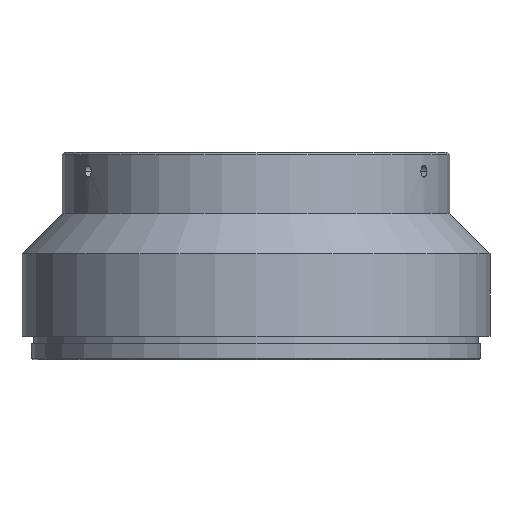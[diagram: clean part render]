
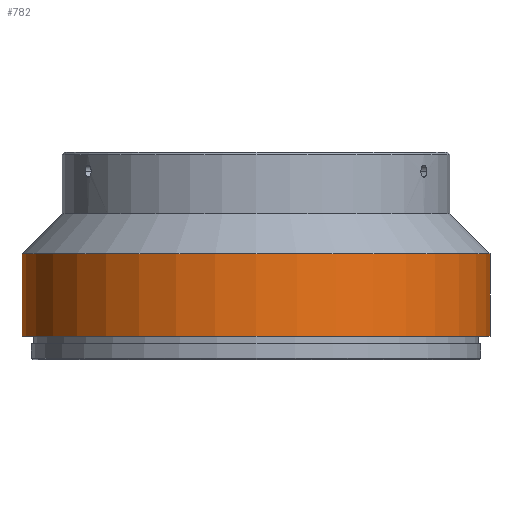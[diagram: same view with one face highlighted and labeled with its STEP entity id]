
A CAD part, front view. The second image highlights one B-rep face of the part: STEP entity #782.
In plain terms, the highlighted cylindrical face has radius 49.5 mm (diameter 99 mm), a partial arc.
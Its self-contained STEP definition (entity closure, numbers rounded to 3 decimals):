
#42 = EDGE_CURVE ( 'NONE', #1081, #888, #568, .T. ) ;
#51 = CARTESIAN_POINT ( 'NONE',  ( 49.5, 0., -21.5 ) ) ;
#127 = DIRECTION ( 'NONE',  ( 0., 0., 1. ) ) ;
#152 = DIRECTION ( 'NONE',  ( 1., 0., 0. ) ) ;
#187 = CARTESIAN_POINT ( 'NONE',  ( -49.5, 0., -38.9 ) ) ;
#211 = CIRCLE ( 'NONE', #1023, 49.5 ) ;
#221 = LINE ( 'NONE', #304, #721 ) ;
#225 = EDGE_LOOP ( 'NONE', ( #318, #815, #367, #541 ) ) ;
#226 = CARTESIAN_POINT ( 'NONE',  ( -49.5, 0., -21.5 ) ) ;
#304 = CARTESIAN_POINT ( 'NONE',  ( -49.5, 0., 0. ) ) ;
#307 = CIRCLE ( 'NONE', #803, 49.5 ) ;
#318 = ORIENTED_EDGE ( 'NONE', *, *, #339, .F. ) ;
#320 = CARTESIAN_POINT ( 'NONE',  ( 0., 0., 0. ) ) ;
#339 = EDGE_CURVE ( 'NONE', #988, #757, #221, .T. ) ;
#347 = EDGE_CURVE ( 'NONE', #757, #888, #307, .T. ) ;
#349 = FACE_OUTER_BOUND ( 'NONE', #225, .T. ) ;
#367 = ORIENTED_EDGE ( 'NONE', *, *, #42, .T. ) ;
#381 = VECTOR ( 'NONE', #127, 1000. ) ;
#485 = DIRECTION ( 'NONE',  ( 0., 0., 1. ) ) ;
#541 = ORIENTED_EDGE ( 'NONE', *, *, #347, .F. ) ;
#558 = DIRECTION ( 'NONE',  ( 1., 0., 0. ) ) ;
#559 = CARTESIAN_POINT ( 'NONE',  ( 0., 0., -21.5 ) ) ;
#568 = LINE ( 'NONE', #1088, #381 ) ;
#595 = DIRECTION ( 'NONE',  ( 0., 0., 1. ) ) ;
#640 = CARTESIAN_POINT ( 'NONE',  ( 0., 0., -38.9 ) ) ;
#721 = VECTOR ( 'NONE', #1078, 1000. ) ;
#753 = AXIS2_PLACEMENT_3D ( 'NONE', #320, #595, #152 ) ;
#757 = VERTEX_POINT ( 'NONE', #226 ) ;
#782 = ADVANCED_FACE ( 'NONE', ( #349 ), #1123, .T. ) ;
#803 = AXIS2_PLACEMENT_3D ( 'NONE', #559, #485, #908 ) ;
#815 = ORIENTED_EDGE ( 'NONE', *, *, #1053, .T. ) ;
#888 = VERTEX_POINT ( 'NONE', #51 ) ;
#908 = DIRECTION ( 'NONE',  ( 1., 0., 0. ) ) ;
#967 = DIRECTION ( 'NONE',  ( 0., 0., 1. ) ) ;
#988 = VERTEX_POINT ( 'NONE', #187 ) ;
#1023 = AXIS2_PLACEMENT_3D ( 'NONE', #640, #967, #558 ) ;
#1040 = CARTESIAN_POINT ( 'NONE',  ( 49.5, 0., -38.9 ) ) ;
#1053 = EDGE_CURVE ( 'NONE', #988, #1081, #211, .T. ) ;
#1078 = DIRECTION ( 'NONE',  ( 0., 0., 1. ) ) ;
#1081 = VERTEX_POINT ( 'NONE', #1040 ) ;
#1088 = CARTESIAN_POINT ( 'NONE',  ( 49.5, 0., 0. ) ) ;
#1123 = CYLINDRICAL_SURFACE ( 'NONE', #753, 49.5 ) ;
